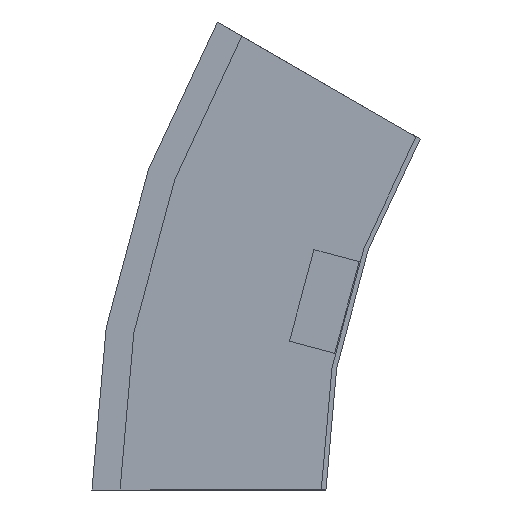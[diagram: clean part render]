
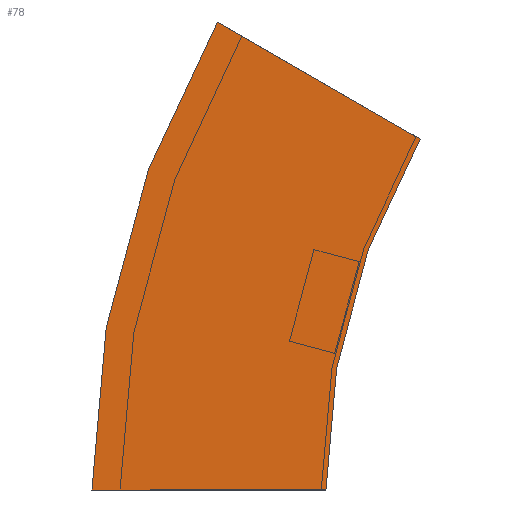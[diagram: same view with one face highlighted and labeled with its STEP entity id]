
A CAD part, left-side view. The second image highlights one B-rep face of the part: STEP entity #78.
In plain terms, the highlighted planar face has unit normal (-1, 0, 0) as drawn and (1, 0, 0) by its records, which use the part's own axes.
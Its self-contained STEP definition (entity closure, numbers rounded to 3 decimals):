
#4 = CARTESIAN_POINT ( 'NONE',  ( 0., 100., 0. ) ) ;
#7 = AXIS2_PLACEMENT_3D ( 'NONE', #46, #396, #204 ) ;
#18 = CIRCLE ( 'NONE', #366, 400. ) ;
#44 = CARTESIAN_POINT ( 'NONE',  ( 0., -40.192, 150. ) ) ;
#46 = CARTESIAN_POINT ( 'NONE',  ( 0., -300., 0. ) ) ;
#70 = EDGE_CURVE ( 'NONE', #543, #440, #514, .T. ) ;
#78 = ADVANCED_FACE ( 'NONE', ( #283 ), #542, .T. ) ;
#87 = EDGE_CURVE ( 'NONE', #114, #564, #18, .T. ) ;
#94 = AXIS2_PLACEMENT_3D ( 'NONE', #150, #530, #319 ) ;
#98 = EDGE_CURVE ( 'NONE', #543, #114, #298, .T. ) ;
#114 = VERTEX_POINT ( 'NONE', #4 ) ;
#150 = CARTESIAN_POINT ( 'NONE',  ( 0., 0., 0. ) ) ;
#152 = EDGE_LOOP ( 'NONE', ( #522, #544, #190, #326 ) ) ;
#190 = ORIENTED_EDGE ( 'NONE', *, *, #70, .F. ) ;
#199 = VECTOR ( 'NONE', #355, 1000. ) ;
#204 = DIRECTION ( 'NONE',  ( 0., 1., 0. ) ) ;
#206 = EDGE_CURVE ( 'NONE', #440, #564, #482, .T. ) ;
#212 = CARTESIAN_POINT ( 'NONE',  ( 0., 0., 0. ) ) ;
#243 = DIRECTION ( 'NONE',  ( 1., 0., 0. ) ) ;
#258 = CARTESIAN_POINT ( 'NONE',  ( 0., 0., 0. ) ) ;
#283 = FACE_OUTER_BOUND ( 'NONE', #152, .T. ) ;
#298 = LINE ( 'NONE', #212, #443 ) ;
#319 = DIRECTION ( 'NONE',  ( 0., 0., -1. ) ) ;
#326 = ORIENTED_EDGE ( 'NONE', *, *, #98, .T. ) ;
#347 = CARTESIAN_POINT ( 'NONE',  ( 0., -40.192, 150. ) ) ;
#355 = DIRECTION ( 'NONE',  ( 0., 0.866, 0.5 ) ) ;
#366 = AXIS2_PLACEMENT_3D ( 'NONE', #538, #243, #545 ) ;
#396 = DIRECTION ( 'NONE',  ( 1., 0., 0. ) ) ;
#440 = VERTEX_POINT ( 'NONE', #347 ) ;
#443 = VECTOR ( 'NONE', #529, 1000. ) ;
#482 = LINE ( 'NONE', #44, #199 ) ;
#491 = CARTESIAN_POINT ( 'NONE',  ( 0., 46.41, 200. ) ) ;
#514 = CIRCLE ( 'NONE', #7, 300. ) ;
#522 = ORIENTED_EDGE ( 'NONE', *, *, #87, .T. ) ;
#529 = DIRECTION ( 'NONE',  ( 0., 1., 0. ) ) ;
#530 = DIRECTION ( 'NONE',  ( 1., 0., 0. ) ) ;
#538 = CARTESIAN_POINT ( 'NONE',  ( 0., -300., 0. ) ) ;
#542 = PLANE ( 'NONE',  #94 ) ;
#543 = VERTEX_POINT ( 'NONE', #258 ) ;
#544 = ORIENTED_EDGE ( 'NONE', *, *, #206, .F. ) ;
#545 = DIRECTION ( 'NONE',  ( 0., 1., 0. ) ) ;
#564 = VERTEX_POINT ( 'NONE', #491 ) ;
